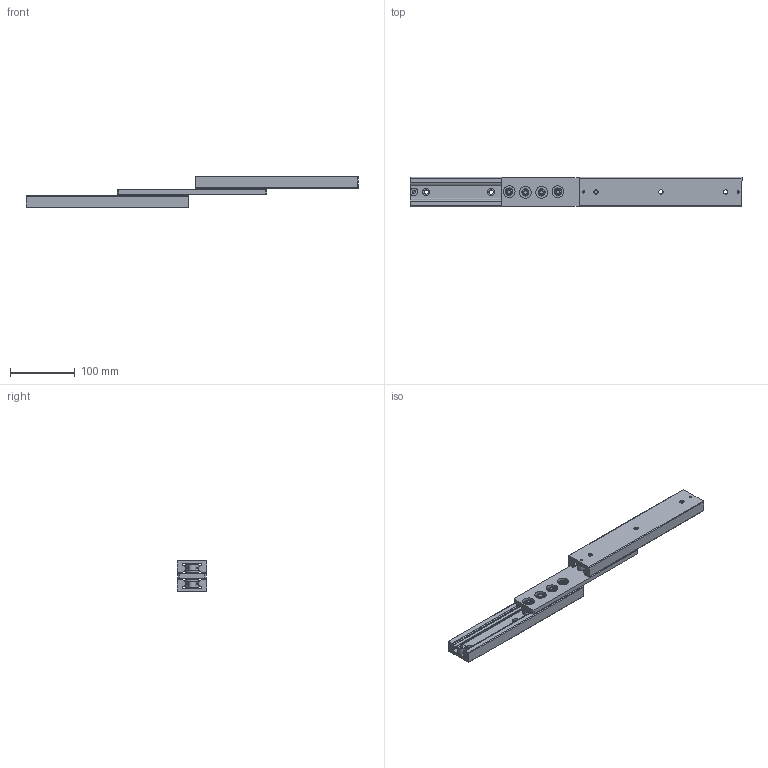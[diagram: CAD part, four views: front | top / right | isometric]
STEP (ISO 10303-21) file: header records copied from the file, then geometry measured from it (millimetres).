
FILE_DESCRIPTION (( 'STEP AP214' ), '1' );
FILE_NAME ('LSIM45DF.STEP', '2020-04-03T09:13:34', ( '' ), ( '' ), 'SwSTEP 2.0', 'SolidWorks 2019', '' );
FILE_SCHEMA (( 'AUTOMOTIVE_DESIGN' ));
Length unit declared in the file: millimetre
Products named in the file (4): LSIM45DFレール; LSIM45ストッパー; LSIM45DF; LSIM45DFリテーナ
Assembly tree (7 placements, depth 2):
  LSIM45DF
    LSIM45DFリテーナ
    LSIM45DFレール  x2
    LSIM45ストッパー  x4
Bounding box: 512 x 45 x 49 mm (x, y, z)
Volume: 359417.9 mm3; surface area: 123723.2 mm2
Topology: 7 solids, 7 shells, 580 faces, 1336 edges, 848 vertices
Faces by surface type: cylinder 210, plane 210, cone 128, torus 32
Entity records: 13132 total; most frequent: CARTESIAN_POINT 2571, DIRECTION 2338, ORIENTED_EDGE 2108, EDGE_CURVE 1054, AXIS2_PLACEMENT_3D 1003, VERTEX_POINT 660, EDGE_LOOP 536, CIRCLE 530
